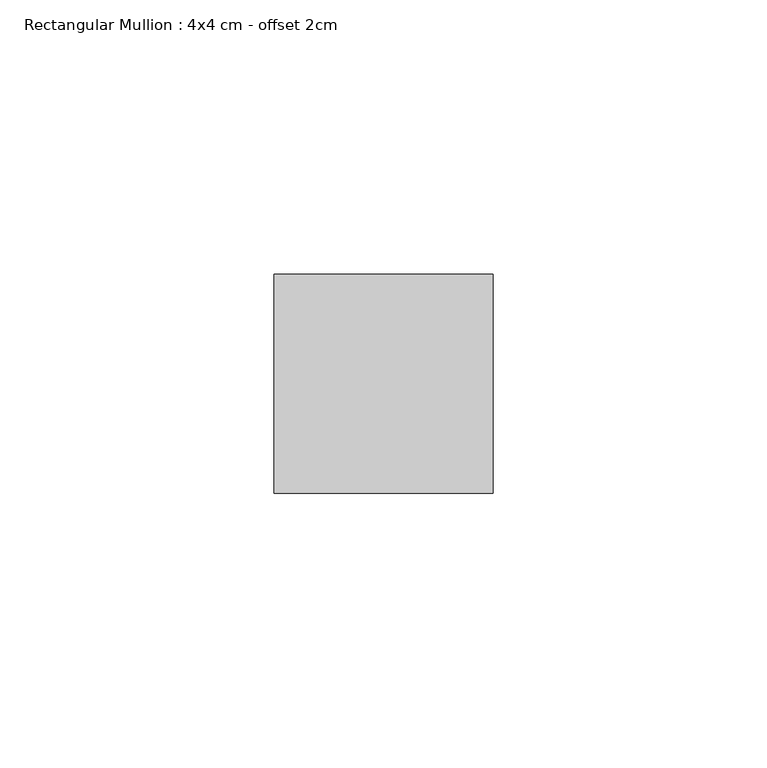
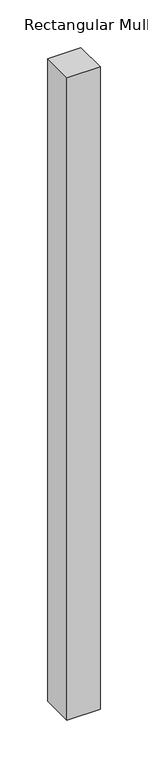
"""IFC4 building model written with IfcOpenShell, lengths in millimetres: member geometry, Rectangular Mullion : 4x4 cm - offset 2cm."""

from ifc_helpers import new_model, si_unit, frame, origin, place, context, project, spatial, polyline, outline, extrude, source, transform, mapped, element, save


def rectangular_mullion_4x4_cm_offset_2cm_9c1948b9(model_context):
    return source(origin(), model_context, "Body", "SweptSolid", [
        extrude(outline(polyline([(40.0, 40.0), (40.0, 0.0), (0.0, 0.0), (0.0, 40.0), (40.0, 40.0)])), frame((0.0, 0.0, -820.0), z_axis=(0.0, 0.0, 1.0), x_axis=(1.0, 0.0, 0.0)), (0.0, 0.0, 1.0), 820.0),
    ])


if __name__ == "__main__":
    model = new_model("IFC4")
    model_context = context("Model", 3, world=origin())
    ifc_project = project(units=[si_unit("LENGTHUNIT", "METRE", prefix="MILLI")], contexts=[model_context])
    site = spatial("IfcSite", under=ifc_project)
    building = spatial("IfcBuilding", under=site)
    placement = place(None, origin())
    rectangular_mullion_4x4_cm_offset_2cm_shape = rectangular_mullion_4x4_cm_offset_2cm_9c1948b9(model_context)
    element("IfcMember", 1, ObjectType="Rectangular Mullion : 4x4 cm - offset 2cm", at=placement, inside=building, context=model_context, shape_type="MappedRepresentation", body=[
        mapped(rectangular_mullion_4x4_cm_offset_2cm_shape, transform((0.0, 0.0, 0.0), x_axis=(1.0, 0.0, 0.0), y_axis=(0.0, 1.0, 0.0), z_axis=(0.0, 0.0, 1.0))),
    ])
    save(model, "model.ifc")
